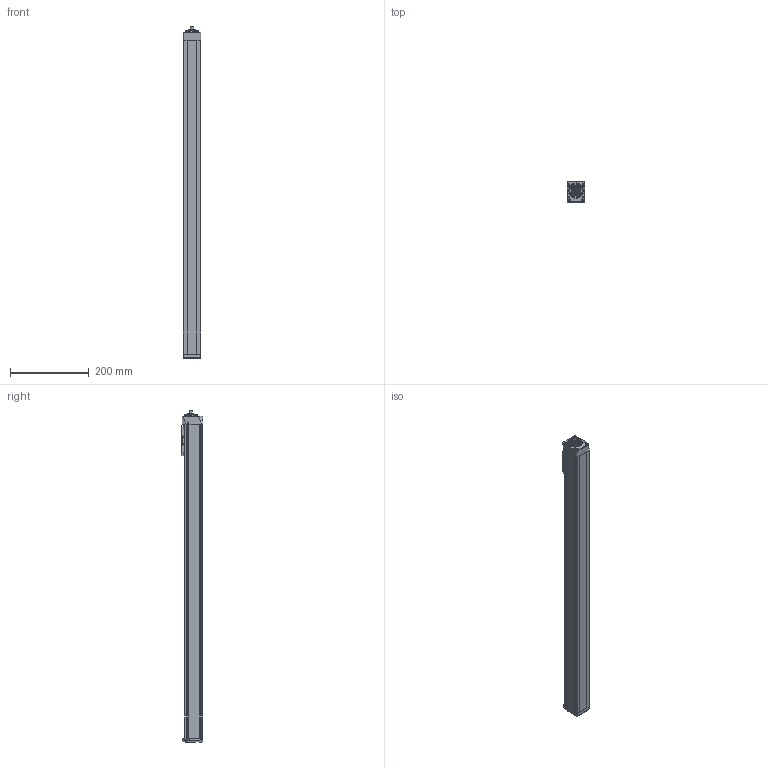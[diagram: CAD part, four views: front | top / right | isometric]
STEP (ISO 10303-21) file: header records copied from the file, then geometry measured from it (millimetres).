
FILE_DESCRIPTION(/* description */ ('STEP AP214'),/* implementation_level */ '2;1');
FILE_NAME(/* name */ 'MGBS 45 1003 700(0)',/* time_stamp */ '2023-04-12T11:11:13+02:00',/* author */ ('License CC BY-ND 4.0'),/* organization */ ('CADENAS'),/* preprocessor_version */ 'ST-DEVELOPER v19.3',/* originating_system */ 'PARTsolutions',/* authorisation */ ' ');
FILE_SCHEMA (('AUTOMOTIVE_DESIGN {1 0 10303 214 3 1 1}'));
Length unit declared in the file: millimetre
Products named in the file (6): MGBS 45 1003 700(0); MGBS 45 700_protection_strip; MGBS 45_carriage; MGBS 45_end_block; MGBS 45 700_profile; MGBS 45_drive_block
Assembly tree (5 placements, depth 2):
  MGBS 45 1003 700(0)
    MGBS 45 700_protection_strip
    MGBS 45_carriage
    MGBS 45_end_block
    MGBS 45 700_profile
    MGBS 45_drive_block
Bounding box: 45 x 54 x 843 mm (x, y, z)
Volume: 1612898.2 mm3; surface area: 257441.9 mm2
Topology: 5 solids, 5 shells, 655 faces, 1721 edges, 1113 vertices
Faces by surface type: plane 312, cylinder 156, cone 94, bspline 64, torus 27, sphere 2
Full cylindrical faces by diameter (mm): 1 x1, 1.755 x4, 2.459 x6, 2.46 x2, 2.5 x8, 3 x4, 3.242 x8, 3.8 x6, 4 x2, 4.5 x4, 5 x2, 5.5 x4, 6.5 x4, 8 x1, 11 x2, 16 x1, 24.5 x1, 34 x2, 38.2 x1
Entity records: 23967 total; most frequent: CARTESIAN_POINT 4130, DIRECTION 3272, ORIENTED_EDGE 3064, EDGE_CURVE 1532, AXIS2_PLACEMENT_3D 1183, VERTEX_POINT 1095, LINE 906, VECTOR 906
